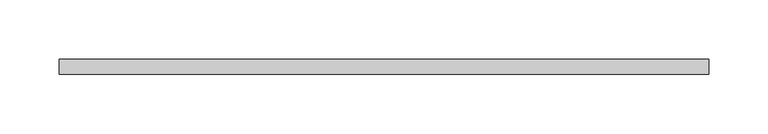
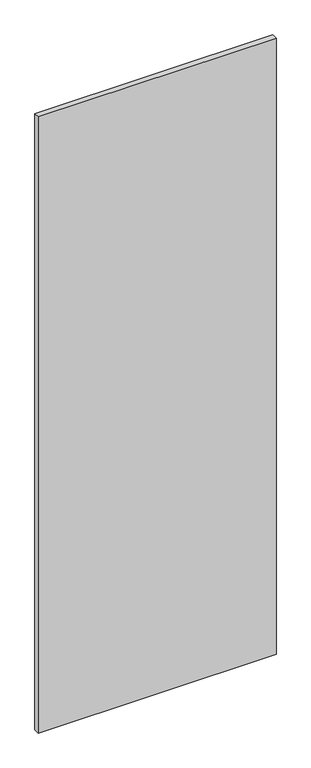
"""IFC4 building model written with IfcOpenShell, lengths in millimetres: proxy geometry, КНАУФ-Файерборд : КНАУФ-Файерборд."""

from ifc_helpers import new_model, si_unit, origin, origin_with_axes, place, context, project, spatial, polyline, outline, extrude, source, transform, mapped, element, save


def generic_models_151085bc(model_context):
    return source(origin(), model_context, "Body", "SweptSolid", [
        extrude(outline(polyline([(274.0, 0.0), (-274.0, 0.0), (-274.0, 12.5), (274.0, 12.5), (274.0, 0.0)])), origin_with_axes(), (0.0, 0.0, 1.0), 1500.0),
    ])


if __name__ == "__main__":
    model = new_model("IFC4")
    model_context = context("Model", 3, world=origin())
    ifc_project = project(units=[si_unit("LENGTHUNIT", "METRE", prefix="MILLI")], contexts=[model_context])
    site = spatial("IfcSite", under=ifc_project)
    building = spatial("IfcBuilding", under=site)
    placement = place(None, origin())
    generic_models_shape = generic_models_151085bc(model_context)
    element("IfcBuildingElementProxy", 1, Name="КНАУФ-Файерборд : КНАУФ-Файерборд", ObjectType="КНАУФ-Файерборд : КНАУФ-Файерборд", at=placement, inside=building, context=model_context, shape_type="MappedRepresentation", body=[
        mapped(generic_models_shape, transform((0.0, 0.0, 0.0), x_axis=(1.0, 0.0, 0.0), y_axis=(0.0, 1.0, 0.0), z_axis=(0.0, 0.0, 1.0))),
    ])
    save(model, "model.ifc")
